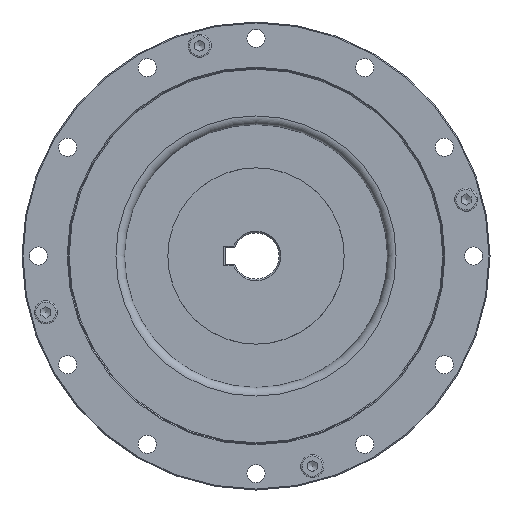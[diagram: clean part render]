
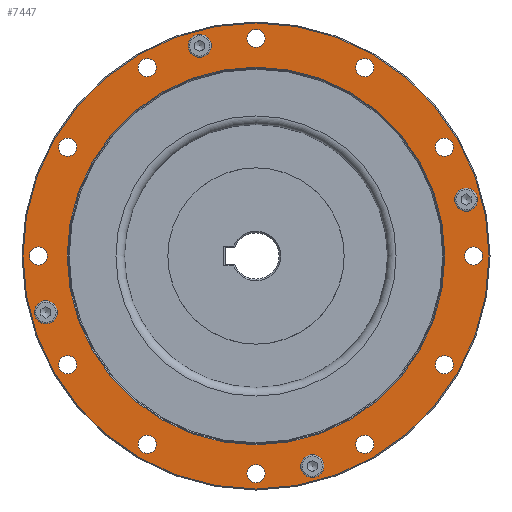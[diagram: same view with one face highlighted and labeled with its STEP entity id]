
A CAD part, left-side view. The second image highlights one B-rep face of the part: STEP entity #7447.
In plain terms, the highlighted planar face has unit normal (-1, 0, 0).
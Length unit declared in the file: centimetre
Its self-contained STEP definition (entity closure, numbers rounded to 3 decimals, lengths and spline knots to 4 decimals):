
#1583=FACE_BOUND($,#2290,.T.);
#1584=FACE_BOUND($,#2291,.T.);
#1585=FACE_BOUND($,#2292,.T.);
#1586=FACE_BOUND($,#2293,.T.);
#1587=FACE_BOUND($,#2294,.T.);
#1588=FACE_BOUND($,#2295,.T.);
#1589=FACE_BOUND($,#2296,.T.);
#1590=FACE_BOUND($,#2297,.T.);
#1591=FACE_BOUND($,#2298,.T.);
#1592=FACE_BOUND($,#2299,.T.);
#1593=FACE_BOUND($,#2300,.T.);
#1594=FACE_BOUND($,#2301,.T.);
#1595=FACE_BOUND($,#2302,.T.);
#1596=FACE_BOUND($,#2303,.T.);
#1597=FACE_BOUND($,#2304,.T.);
#1598=FACE_BOUND($,#2305,.T.);
#1599=FACE_BOUND($,#2306,.T.);
#1600=FACE_BOUND($,#2307,.T.);
#2290=EDGE_LOOP($,(#6080));
#2291=EDGE_LOOP($,(#6081));
#2292=EDGE_LOOP($,(#6082));
#2293=EDGE_LOOP($,(#6083));
#2294=EDGE_LOOP($,(#6084));
#2295=EDGE_LOOP($,(#6085));
#2296=EDGE_LOOP($,(#6086));
#2297=EDGE_LOOP($,(#6087));
#2298=EDGE_LOOP($,(#6088));
#2299=EDGE_LOOP($,(#6089));
#2300=EDGE_LOOP($,(#6090));
#2301=EDGE_LOOP($,(#6091));
#2302=EDGE_LOOP($,(#6092));
#2303=EDGE_LOOP($,(#6093));
#2304=EDGE_LOOP($,(#6094));
#2305=EDGE_LOOP($,(#6095));
#2306=EDGE_LOOP($,(#6096));
#2307=EDGE_LOOP($,(#6097));
#2859=CIRCLE($,#8275,0.35);
#2862=CIRCLE($,#8288,0.35);
#2953=CIRCLE($,#8488,0.275);
#2955=CIRCLE($,#8491,0.275);
#2957=CIRCLE($,#8494,0.275);
#2959=CIRCLE($,#8497,0.275);
#2961=CIRCLE($,#8500,0.275);
#2963=CIRCLE($,#8503,0.275);
#2965=CIRCLE($,#8506,0.275);
#2967=CIRCLE($,#8509,0.275);
#2969=CIRCLE($,#8512,0.275);
#2971=CIRCLE($,#8515,0.275);
#2973=CIRCLE($,#8518,0.275);
#2975=CIRCLE($,#8521,0.275);
#2985=CIRCLE($,#8540,5.73);
#2989=CIRCLE($,#8549,0.35);
#2990=CIRCLE($,#8550,0.35);
#2991=CIRCLE($,#8551,7.07);
#3392=VERTEX_POINT($,#12345);
#3407=VERTEX_POINT($,#12403);
#3528=VERTEX_POINT($,#12808);
#3530=VERTEX_POINT($,#12813);
#3532=VERTEX_POINT($,#12818);
#3534=VERTEX_POINT($,#12823);
#3536=VERTEX_POINT($,#12828);
#3538=VERTEX_POINT($,#12833);
#3540=VERTEX_POINT($,#12838);
#3542=VERTEX_POINT($,#12843);
#3544=VERTEX_POINT($,#12848);
#3546=VERTEX_POINT($,#12853);
#3548=VERTEX_POINT($,#12858);
#3550=VERTEX_POINT($,#12863);
#3560=VERTEX_POINT($,#12892);
#3564=VERTEX_POINT($,#12905);
#3565=VERTEX_POINT($,#12907);
#3566=VERTEX_POINT($,#12909);
#4211=EDGE_CURVE($,#3392,#3392,#2859,.T.);
#4232=EDGE_CURVE($,#3407,#3407,#2862,.T.);
#4371=EDGE_CURVE($,#3528,#3528,#2953,.T.);
#4373=EDGE_CURVE($,#3530,#3530,#2955,.T.);
#4375=EDGE_CURVE($,#3532,#3532,#2957,.T.);
#4377=EDGE_CURVE($,#3534,#3534,#2959,.T.);
#4379=EDGE_CURVE($,#3536,#3536,#2961,.T.);
#4381=EDGE_CURVE($,#3538,#3538,#2963,.T.);
#4383=EDGE_CURVE($,#3540,#3540,#2965,.T.);
#4385=EDGE_CURVE($,#3542,#3542,#2967,.T.);
#4387=EDGE_CURVE($,#3544,#3544,#2969,.T.);
#4389=EDGE_CURVE($,#3546,#3546,#2971,.T.);
#4391=EDGE_CURVE($,#3548,#3548,#2973,.T.);
#4393=EDGE_CURVE($,#3550,#3550,#2975,.T.);
#4403=EDGE_CURVE($,#3560,#3560,#2985,.T.);
#4407=EDGE_CURVE($,#3564,#3564,#2989,.T.);
#4408=EDGE_CURVE($,#3565,#3565,#2990,.T.);
#4409=EDGE_CURVE($,#3566,#3566,#2991,.T.);
#6080=ORIENTED_EDGE($,*,*,#4407,.T.);
#6081=ORIENTED_EDGE($,*,*,#4211,.T.);
#6082=ORIENTED_EDGE($,*,*,#4408,.T.);
#6083=ORIENTED_EDGE($,*,*,#4232,.T.);
#6084=ORIENTED_EDGE($,*,*,#4403,.F.);
#6085=ORIENTED_EDGE($,*,*,#4371,.T.);
#6086=ORIENTED_EDGE($,*,*,#4373,.T.);
#6087=ORIENTED_EDGE($,*,*,#4375,.T.);
#6088=ORIENTED_EDGE($,*,*,#4377,.T.);
#6089=ORIENTED_EDGE($,*,*,#4379,.T.);
#6090=ORIENTED_EDGE($,*,*,#4381,.T.);
#6091=ORIENTED_EDGE($,*,*,#4383,.T.);
#6092=ORIENTED_EDGE($,*,*,#4385,.T.);
#6093=ORIENTED_EDGE($,*,*,#4387,.T.);
#6094=ORIENTED_EDGE($,*,*,#4389,.T.);
#6095=ORIENTED_EDGE($,*,*,#4391,.T.);
#6096=ORIENTED_EDGE($,*,*,#4393,.T.);
#6097=ORIENTED_EDGE($,*,*,#4409,.F.);
#6554=PLANE($,#8548);
#7447=ADVANCED_FACE($,(#1583,#1584,#1585,#1586,#1587,#1588,#1589,#1590,
#1591,#1592,#1593,#1594,#1595,#1596,#1597,#1598,#1599,#1600),#6554,.T.);
#8275=AXIS2_PLACEMENT_3D($,#12346,#10238,#10239);
#8288=AXIS2_PLACEMENT_3D($,#12404,#10276,#10277);
#8488=AXIS2_PLACEMENT_3D($,#12809,#10706,#10707);
#8491=AXIS2_PLACEMENT_3D($,#12814,#10712,#10713);
#8494=AXIS2_PLACEMENT_3D($,#12819,#10718,#10719);
#8497=AXIS2_PLACEMENT_3D($,#12824,#10724,#10725);
#8500=AXIS2_PLACEMENT_3D($,#12829,#10730,#10731);
#8503=AXIS2_PLACEMENT_3D($,#12834,#10736,#10737);
#8506=AXIS2_PLACEMENT_3D($,#12839,#10742,#10743);
#8509=AXIS2_PLACEMENT_3D($,#12844,#10748,#10749);
#8512=AXIS2_PLACEMENT_3D($,#12849,#10754,#10755);
#8515=AXIS2_PLACEMENT_3D($,#12854,#10760,#10761);
#8518=AXIS2_PLACEMENT_3D($,#12859,#10766,#10767);
#8521=AXIS2_PLACEMENT_3D($,#12864,#10772,#10773);
#8540=AXIS2_PLACEMENT_3D($,#12893,#10810,#10811);
#8548=AXIS2_PLACEMENT_3D($,#12904,#10826,#10827);
#8549=AXIS2_PLACEMENT_3D($,#12906,#10828,#10829);
#8550=AXIS2_PLACEMENT_3D($,#12908,#10830,#10831);
#8551=AXIS2_PLACEMENT_3D($,#12910,#10832,#10833);
#10238=DIRECTION('center_axis',(1.,0.,0.));
#10239=DIRECTION('ref_axis',(0.,1.,0.));
#10276=DIRECTION('center_axis',(1.,0.,0.));
#10277=DIRECTION('ref_axis',(0.,1.,0.));
#10706=DIRECTION('center_axis',(1.,0.,0.));
#10707=DIRECTION('ref_axis',(0.,0.5,0.866));
#10712=DIRECTION('center_axis',(1.,0.,0.));
#10713=DIRECTION('ref_axis',(0.,0.866,0.5));
#10718=DIRECTION('center_axis',(1.,0.,0.));
#10719=DIRECTION('ref_axis',(0.,1.,0.));
#10724=DIRECTION('center_axis',(1.,0.,0.));
#10725=DIRECTION('ref_axis',(0.,0.866,-0.5));
#10730=DIRECTION('center_axis',(1.,0.,0.));
#10731=DIRECTION('ref_axis',(0.,0.5,-0.866));
#10736=DIRECTION('center_axis',(1.,0.,0.));
#10737=DIRECTION('ref_axis',(0.,0.,
-1.));
#10742=DIRECTION('center_axis',(1.,0.,0.));
#10743=DIRECTION('ref_axis',(0.,-0.5,-0.866));
#10748=DIRECTION('center_axis',(1.,0.,0.));
#10749=DIRECTION('ref_axis',(0.,-0.866,
-0.5));
#10754=DIRECTION('center_axis',(1.,0.,0.));
#10755=DIRECTION('ref_axis',(0.,-1.,0.));
#10760=DIRECTION('center_axis',(1.,0.,0.));
#10761=DIRECTION('ref_axis',(0.,-0.866,
0.5));
#10766=DIRECTION('center_axis',(1.,0.,0.));
#10767=DIRECTION('ref_axis',(0.,-0.5,0.866));
#10772=DIRECTION('center_axis',(1.,0.,0.));
#10773=DIRECTION('ref_axis',(0.,0.,
1.));
#10810=DIRECTION('center_axis',(-1.,0.,0.));
#10811=DIRECTION('ref_axis',(0.,-1.,0.));
#10826=DIRECTION('center_axis',(-1.,0.,0.));
#10827=DIRECTION('ref_axis',(0.,0.,1.));
#10828=DIRECTION('center_axis',(1.,0.,0.));
#10829=DIRECTION('ref_axis',(0.,1.,0.));
#10830=DIRECTION('center_axis',(1.,0.,0.));
#10831=DIRECTION('ref_axis',(0.,1.,0.));
#10832=DIRECTION('center_axis',(1.,0.,0.));
#10833=DIRECTION('ref_axis',(0.,-1.,0.));
#12345=CARTESIAN_POINT('',(-0.36,-6.0251,1.7082));
#12346=CARTESIAN_POINT('Origin',(-0.36,-6.3751,1.7082));
#12403=CARTESIAN_POINT('',(-0.36,2.0582,6.3751));
#12404=CARTESIAN_POINT('Origin',(-0.36,1.7082,6.3751));
#12808=CARTESIAN_POINT('',(-0.36,5.8533,-3.0618));
#12809=CARTESIAN_POINT('Origin',(-0.36,5.7158,-3.3));
#12813=CARTESIAN_POINT('',(-0.36,3.5382,-5.5783));
#12814=CARTESIAN_POINT('Origin',(-0.36,3.3,-5.7158));
#12818=CARTESIAN_POINT('',(-0.36,0.275,-6.6));
#12819=CARTESIAN_POINT('Origin',(-0.36,0.,
-6.6));
#12823=CARTESIAN_POINT('',(-0.36,-3.0618,-5.8533));
#12824=CARTESIAN_POINT('Origin',(-0.36,-3.3,-5.7158));
#12828=CARTESIAN_POINT('',(-0.36,-5.5783,-3.5382));
#12829=CARTESIAN_POINT('Origin',(-0.36,-5.7158,-3.3));
#12833=CARTESIAN_POINT('',(-0.36,-6.6,-0.275));
#12834=CARTESIAN_POINT('Origin',(-0.36,-6.6,0.));
#12838=CARTESIAN_POINT('',(-0.36,-5.8533,3.0618));
#12839=CARTESIAN_POINT('Origin',(-0.36,-5.7158,3.3));
#12843=CARTESIAN_POINT('',(-0.36,-3.5382,5.5783));
#12844=CARTESIAN_POINT('Origin',(-0.36,-3.3,5.7158));
#12848=CARTESIAN_POINT('',(-0.36,-0.275,6.6));
#12849=CARTESIAN_POINT('Origin',(-0.36,0.,
6.6));
#12853=CARTESIAN_POINT('',(-0.36,3.0618,5.8533));
#12854=CARTESIAN_POINT('Origin',(-0.36,3.3,5.7158));
#12858=CARTESIAN_POINT('',(-0.36,5.5783,3.5382));
#12859=CARTESIAN_POINT('Origin',(-0.36,5.7158,3.3));
#12863=CARTESIAN_POINT('',(-0.36,6.6,0.275));
#12864=CARTESIAN_POINT('Origin',(-0.36,6.6,0.));
#12892=CARTESIAN_POINT('',(-0.36,5.73,0.));
#12893=CARTESIAN_POINT('Origin',(-0.36,0.,
0.));
#12904=CARTESIAN_POINT('Origin',(-0.36,7.1,0.));
#12905=CARTESIAN_POINT('',(-0.36,6.7251,-1.7082));
#12906=CARTESIAN_POINT('Origin',(-0.36,6.3751,-1.7082));
#12907=CARTESIAN_POINT('',(-0.36,-1.3582,-6.3751));
#12908=CARTESIAN_POINT('Origin',(-0.36,-1.7082,-6.3751));
#12909=CARTESIAN_POINT('',(-0.36,7.07,0.));
#12910=CARTESIAN_POINT('Origin',(-0.36,0.,
0.));
